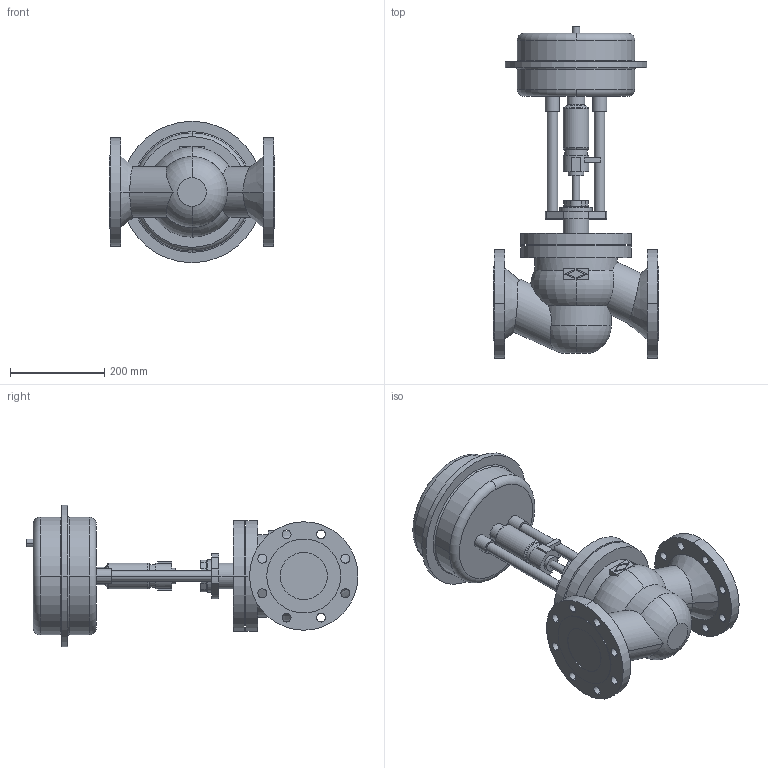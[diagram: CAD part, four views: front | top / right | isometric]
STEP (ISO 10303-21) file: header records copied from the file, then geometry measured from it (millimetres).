
FILE_DESCRIPTION( ( '' ), '1' );
FILE_NAME( 'F:/DE-SHS/TB/OR/04-Sonstiges/daten/files_3d/470-471_ANSI/470_ANSI150/c000005815.stp', '2015-10-22T06:45:52', ( '' ), ( '' ), ' ', ' ', ' ' );
FILE_SCHEMA( ( 'CONFIG_CONTROL_DESIGN' ) );
Length unit declared in the file: millimetre
Products named in the file (2): 1; 2
Bounding box: 352 x 704.5 x 300 mm (x, y, z)
Volume: 17463987.7 mm3; surface area: 818767.9 mm2
Topology: 2 solids, 2 shells, 204 faces, 520 edges, 347 vertices
Faces by surface type: cylinder 102, plane 71, torus 21, cone 10
Entity records: 7143 total; most frequent: CARTESIAN_POINT 1783, DIRECTION 1201, ORIENTED_EDGE 1040, EDGE_CURVE 520, AXIS2_PLACEMENT_3D 495, VERTEX_POINT 347, CIRCLE 289, EDGE_LOOP 263
